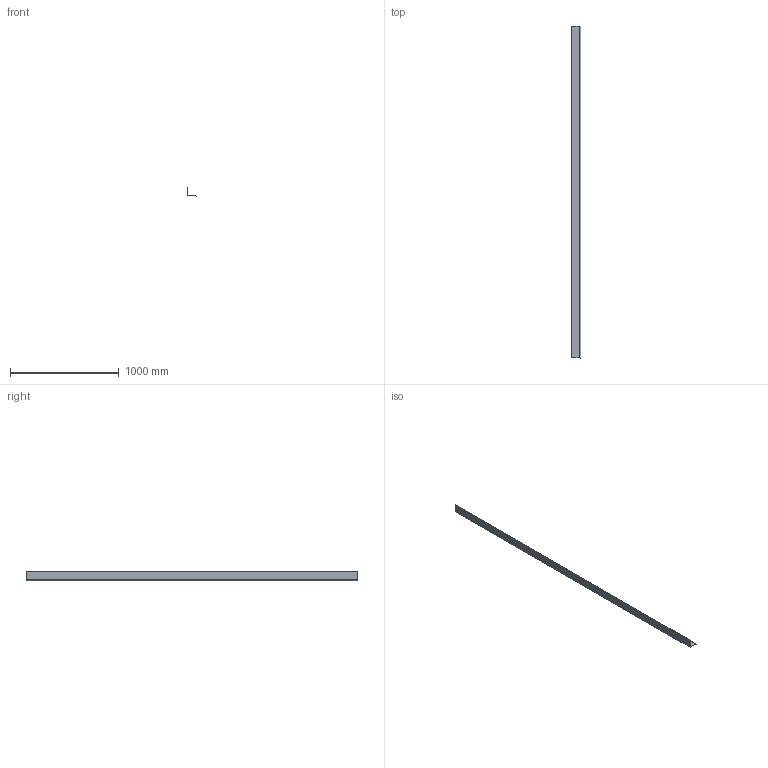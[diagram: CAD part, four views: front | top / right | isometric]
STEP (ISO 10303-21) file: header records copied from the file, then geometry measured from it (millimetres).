
FILE_DESCRIPTION(/* description */ (''),/* implementation_level */ '2;1');
FILE_NAME(/* name */ 'C:\Users\Utilisateur\Mac Metal\Site de communication - Documents\Ingénierie\Développement de produits\Board and Batten\Dessins\Moulures\M53H\M53H.stp',/* time_stamp */ '2022-06-29T16:59:18-04:00',/* author */ ('Utilisateur'),/* organization */ (''),/* preprocessor_version */ 'ST-DEVELOPER v18.1',/* originating_system */ 'Autodesk Inventor 2021',/* authorisation */ '');
FILE_SCHEMA (('AUTOMOTIVE_DESIGN { 1 0 10303 214 3 1 1 }'));
Length unit declared in the file: inch
Products named in the file (1): Solin double
Bounding box: 87.03 x 3048 x 90.78 mm (x, y, z)
Volume: 487469.4 mm3; surface area: 1590839.1 mm2
Topology: 1 solids, 1 shells, 22 faces, 60 edges, 40 vertices
Faces by surface type: plane 14, cylinder 8
Entity records: 743 total; most frequent: CARTESIAN_POINT 123, DIRECTION 122, ORIENTED_EDGE 120, EDGE_CURVE 60, LINE 44, VECTOR 44, VERTEX_POINT 40, AXIS2_PLACEMENT_3D 39
